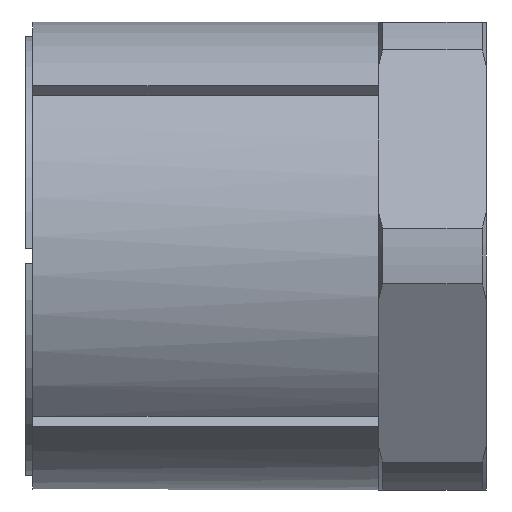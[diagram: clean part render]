
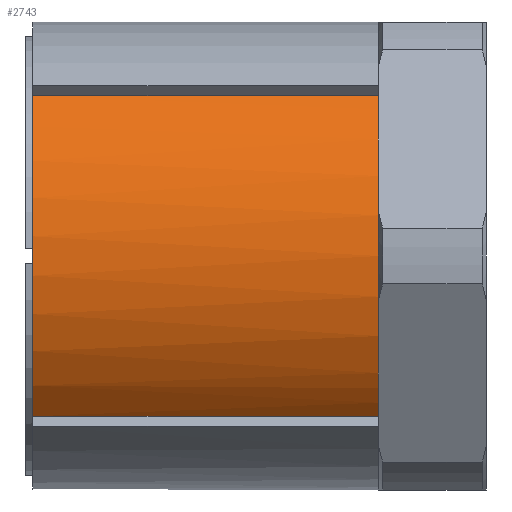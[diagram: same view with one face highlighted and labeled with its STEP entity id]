
A CAD part, front view. The second image highlights one B-rep face of the part: STEP entity #2743.
In plain terms, the highlighted cylindrical face has radius 32.5 mm (diameter 65 mm), a partial arc.
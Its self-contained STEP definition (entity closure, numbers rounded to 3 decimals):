
#769 = EDGE_CURVE ( 'NONE', #1018, #1047, #1961, .T. ) ;
#776 = EDGE_CURVE ( 'NONE', #1035, #1047, #1969, .T. ) ;
#778 = EDGE_CURVE ( 'NONE', #1018, #1057, #1972, .T. ) ;
#779 = EDGE_CURVE ( 'NONE', #1076, #1050, #1977, .T. ) ;
#781 = EDGE_CURVE ( 'NONE', #1057, #1076, #1980, .T. ) ;
#783 = EDGE_CURVE ( 'NONE', #1050, #1035, #1984, .T. ) ;
#874 = CARTESIAN_POINT ( 'NONE',  ( 0., 0., 0. ) ) ;
#1018 = VERTEX_POINT ( 'NONE', #1359 ) ;
#1035 = VERTEX_POINT ( 'NONE', #1353 ) ;
#1047 = VERTEX_POINT ( 'NONE', #1386 ) ;
#1050 = VERTEX_POINT ( 'NONE', #1389 ) ;
#1057 = VERTEX_POINT ( 'NONE', #1396 ) ;
#1076 = VERTEX_POINT ( 'NONE', #1415 ) ;
#1169 = ORIENTED_EDGE ( 'NONE', *, *, #783, .T. ) ;
#1317 = DIRECTION ( 'NONE',  ( -1., 0., 0. ) ) ;
#1318 = DIRECTION ( 'NONE',  ( 0., 0., 1. ) ) ;
#1327 = CARTESIAN_POINT ( 'NONE',  ( 0., -23.677, 22.263 ) ) ;
#1334 = CARTESIAN_POINT ( 'NONE',  ( 48., 0., 0. ) ) ;
#1335 = DIRECTION ( 'NONE',  ( -1., 0., 0. ) ) ;
#1337 = CARTESIAN_POINT ( 'NONE',  ( 48., 0., 0. ) ) ;
#1340 = CARTESIAN_POINT ( 'NONE',  ( 0., -23.677, -22.263 ) ) ;
#1341 = DIRECTION ( 'NONE',  ( 1., 0., 0. ) ) ;
#1343 = DIRECTION ( 'NONE',  ( -1., 0., 0. ) ) ;
#1344 = DIRECTION ( 'NONE',  ( 0., 0., 1. ) ) ;
#1347 = CARTESIAN_POINT ( 'NONE',  ( 48., 0., 0. ) ) ;
#1348 = DIRECTION ( 'NONE',  ( -1., 0., 0. ) ) ;
#1349 = DIRECTION ( 'NONE',  ( 0., 0., 1. ) ) ;
#1353 = CARTESIAN_POINT ( 'NONE',  ( 48., -23.677, 22.263 ) ) ;
#1354 = DIRECTION ( 'NONE',  ( -1., 0., 0. ) ) ;
#1355 = DIRECTION ( 'NONE',  ( 0., 0., 1. ) ) ;
#1359 = CARTESIAN_POINT ( 'NONE',  ( 0., -23.677, -22.263 ) ) ;
#1386 = CARTESIAN_POINT ( 'NONE',  ( 0., -23.677, 22.263 ) ) ;
#1389 = CARTESIAN_POINT ( 'NONE',  ( 48., -28.146, 16.25 ) ) ;
#1396 = CARTESIAN_POINT ( 'NONE',  ( 48., -23.677, -22.263 ) ) ;
#1415 = CARTESIAN_POINT ( 'NONE',  ( 48., -28.146, -16.25 ) ) ;
#1563 = DIRECTION ( 'NONE',  ( 0., 0., 1. ) ) ;
#1567 = DIRECTION ( 'NONE',  ( -1., 0., 0. ) ) ;
#1568 = CARTESIAN_POINT ( 'NONE',  ( 0., 0., 0. ) ) ;
#1961 = CIRCLE ( 'NONE', #2700, 32.5 ) ;
#1965 = VECTOR ( 'NONE', #1341, 1000. ) ;
#1969 = LINE ( 'NONE', #1327, #1971 ) ;
#1971 = VECTOR ( 'NONE', #1335, 1000. ) ;
#1972 = LINE ( 'NONE', #1340, #1965 ) ;
#1977 = CIRCLE ( 'NONE', #2674, 32.5 ) ;
#1980 = CIRCLE ( 'NONE', #2717, 32.5 ) ;
#1984 = CIRCLE ( 'NONE', #2662, 32.5 ) ;
#2026 = FACE_OUTER_BOUND ( 'NONE', #2467, .T. ) ;
#2036 = CYLINDRICAL_SURFACE ( 'NONE', #2687, 32.5 ) ;
#2467 = EDGE_LOOP ( 'NONE', ( #1169, #2560, #2586, #2574, #2577, #2583 ) ) ;
#2560 = ORIENTED_EDGE ( 'NONE', *, *, #776, .T. ) ;
#2574 = ORIENTED_EDGE ( 'NONE', *, *, #778, .T. ) ;
#2577 = ORIENTED_EDGE ( 'NONE', *, *, #781, .T. ) ;
#2583 = ORIENTED_EDGE ( 'NONE', *, *, #779, .T. ) ;
#2586 = ORIENTED_EDGE ( 'NONE', *, *, #769, .F. ) ;
#2662 = AXIS2_PLACEMENT_3D ( 'NONE', #1347, #1354, #1355 ) ;
#2674 = AXIS2_PLACEMENT_3D ( 'NONE', #1334, #1343, #1344 ) ;
#2687 = AXIS2_PLACEMENT_3D ( 'NONE', #1568, #1567, #1563 ) ;
#2700 = AXIS2_PLACEMENT_3D ( 'NONE', #874, #1317, #1318 ) ;
#2717 = AXIS2_PLACEMENT_3D ( 'NONE', #1337, #1348, #1349 ) ;
#2743 = ADVANCED_FACE ( 'NONE', ( #2026 ), #2036, .T. ) ;
